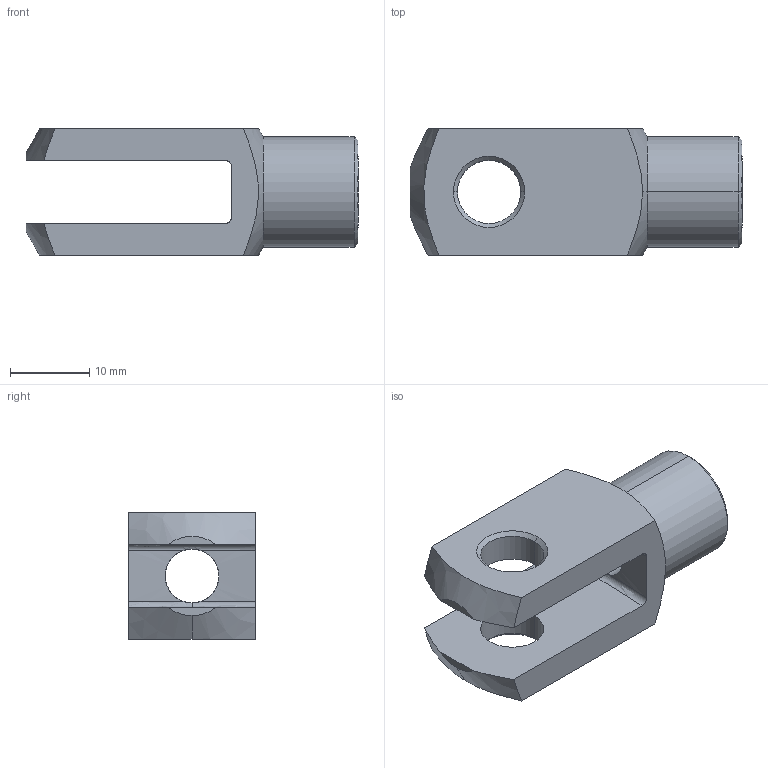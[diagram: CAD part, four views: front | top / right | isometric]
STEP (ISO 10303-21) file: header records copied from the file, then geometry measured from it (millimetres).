
FILE_DESCRIPTION (( 'STEP AP214' ), '1' );
FILE_NAME ('11.G816.STEP', '2017-10-30T08:52:17', ( '' ), ( '' ), 'SwSTEP 2.0', 'SolidWorks 2016', '' );
FILE_SCHEMA (( 'AUTOMOTIVE_DESIGN' ));
Length unit declared in the file: millimetre
Products named in the file (1): 11.G816
Bounding box: 42 x 16 x 16 mm (x, y, z)
Volume: 4917.3 mm3; surface area: 3404.1 mm2
Topology: 1 solids, 1 shells, 35 faces, 91 edges, 57 vertices
Faces by surface type: cone 13, cylinder 10, plane 9, torus 3
Entity records: 1313 total; most frequent: CARTESIAN_POINT 435, ORIENTED_EDGE 182, DIRECTION 169, EDGE_CURVE 91, AXIS2_PLACEMENT_3D 69, VERTEX_POINT 57, EDGE_LOOP 40, ADVANCED_FACE 35
